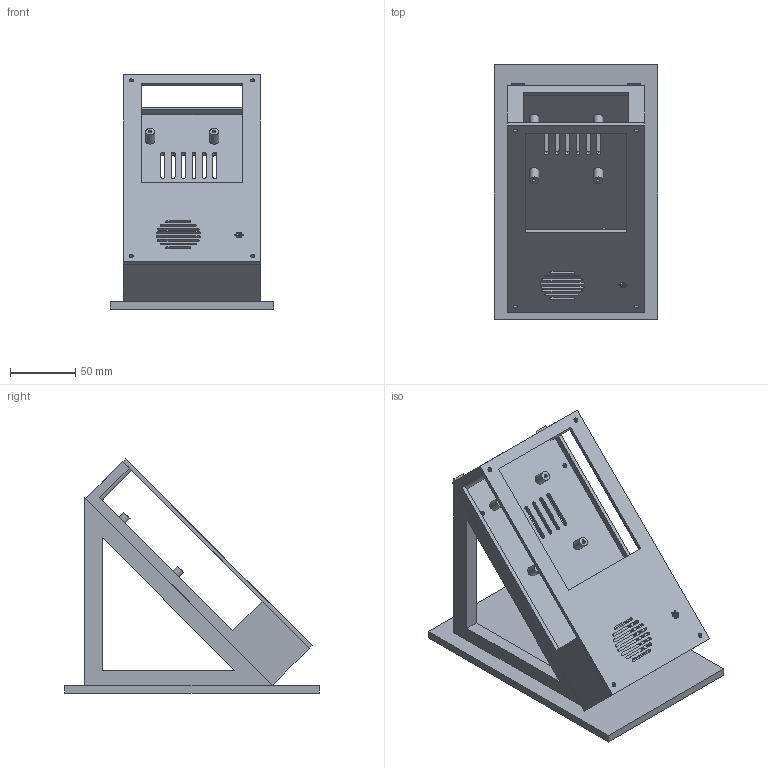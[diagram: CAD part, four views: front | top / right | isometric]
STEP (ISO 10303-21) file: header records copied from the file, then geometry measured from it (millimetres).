
FILE_DESCRIPTION(('Open CASCADE Model'),'2;1');
FILE_NAME('Open CASCADE Shape Model','2026-11-11T15:03:46',('Author'),( 'Open CASCADE'),'Open CASCADE STEP processor 7.8','Open CASCADE 7.8' ,'Unknown');
FILE_SCHEMA(('AUTOMOTIVE_DESIGN { 1 0 10303 214 1 1 1 1 }'));
Length unit declared in the file: millimetre
Products named in the file (5): DK2_45deg_V3_Portrait; tray; front_panel; stand; speaker_cassette
Assembly tree (4 placements, depth 2):
  DK2_45deg_V3_Portrait
    tray
    front_panel
    stand
    speaker_cassette
Bounding box: 125 x 195 x 179.24 mm (x, y, z)
Volume: 397345.1 mm3; surface area: 191923.8 mm2
Topology: 4 solids, 4 shells, 282 faces, 693 edges, 462 vertices
Faces by surface type: plane 185, cylinder 97
Full cylindrical faces by diameter (mm): 1.6 x9, 2.1 x4, 2.7 x12, 2.8 x4, 3.3 x8, 4.1 x2, 6 x4, 7 x4, 12 x4
Entity records: 17969 total; most frequent: CARTESIAN_POINT 3638, DIRECTION 2696, LINE 1627, VECTOR 1627, ORIENTED_EDGE 1386, PCURVE 1386, DEFINITIONAL_REPRESENTATION 1386, EDGE_CURVE 693
